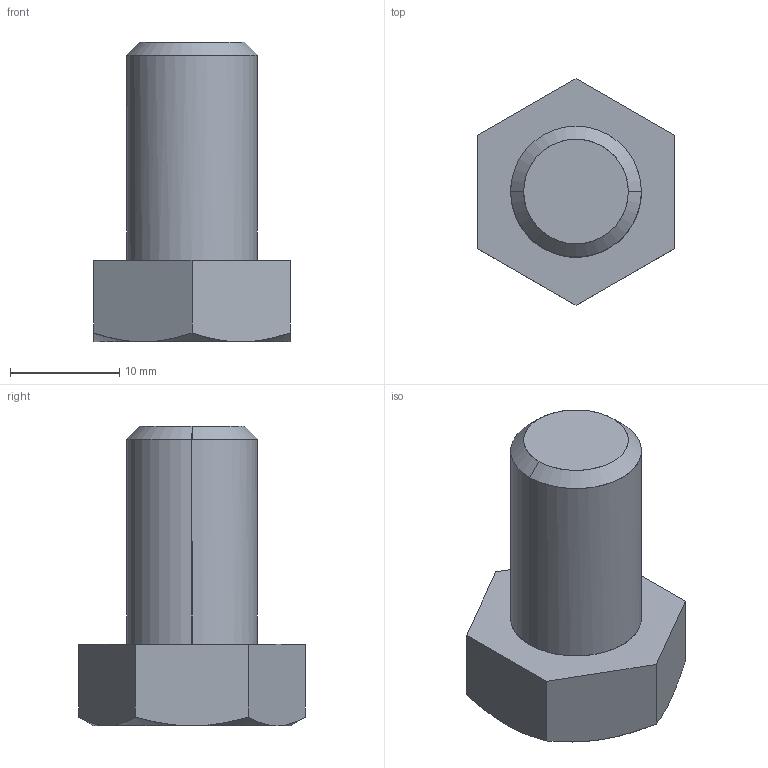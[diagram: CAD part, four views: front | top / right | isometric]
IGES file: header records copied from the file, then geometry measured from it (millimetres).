
Start section: START RECORD GO HERE.
Global section: file name: VisH16bis.igs; native system: IBM CATIA IGES - CATIA Version 5 Release 18 ; preprocessor: CATIA Version 5 Release 18 ; author: Propriétaire; organization: FUJITSU-79916BB; date: 20090111.192118; units: millimetre
Bounding box: 18 x 20.78 x 27.5 mm (x, y, z)
Surface area: 1741.3 mm2 (no closed solid volume)
Topology: 0 solids, 0 shells, 19 faces, 80 edges, 80 vertices
Faces by surface type: revolution 10, plane 9
